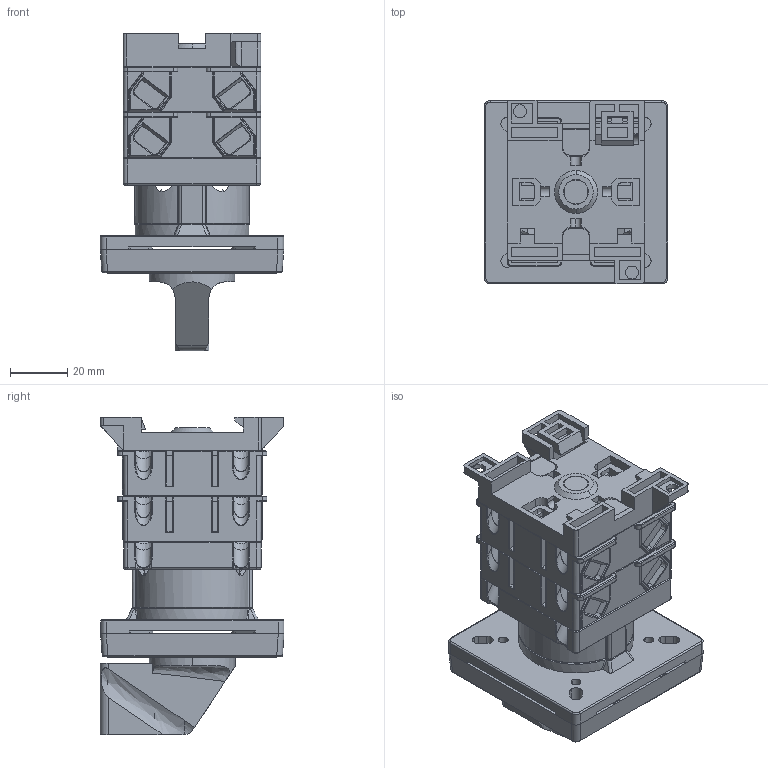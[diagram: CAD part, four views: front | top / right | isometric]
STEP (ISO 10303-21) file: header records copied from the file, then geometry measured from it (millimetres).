
FILE_DESCRIPTION (( 'STEP AP214' ), '1' );
FILE_NAME ('Ïåðåêëþ÷àòåëü 4G16,25-XXXX-U-S18-R114 2ê.STEP', '2022-12-02T13:05:49', ( '' ), ( '' ), 'SwSTEP 2.0', 'SolidWorks 2018', '' );
FILE_SCHEMA (( 'AUTOMOTIVE_DESIGN' ));
Length unit declared in the file: millimetre
Products named in the file (1): Ïåðåêëþ÷àòåëü 4G16,25-XXXX-U-S18-R114 2ê
Bounding box: 64 x 64.21 x 110.8 mm (x, y, z)
Volume: 161047.1 mm3; surface area: 91574.7 mm2
Topology: 13 solids, 29 shells, 3463 faces, 9135 edges, 5782 vertices
Faces by surface type: plane 1950, cylinder 1099, torus 160, cone 117, bspline 77, sphere 60
Entity records: 155179 total; most frequent: CARTESIAN_POINT 32283, ORIENTED_EDGE 18172, DIRECTION 17163, EDGE_CURVE 9086, VECTOR 6129, LINE 6129, VERTEX_POINT 5770, AXIS2_PLACEMENT_3D 5517
